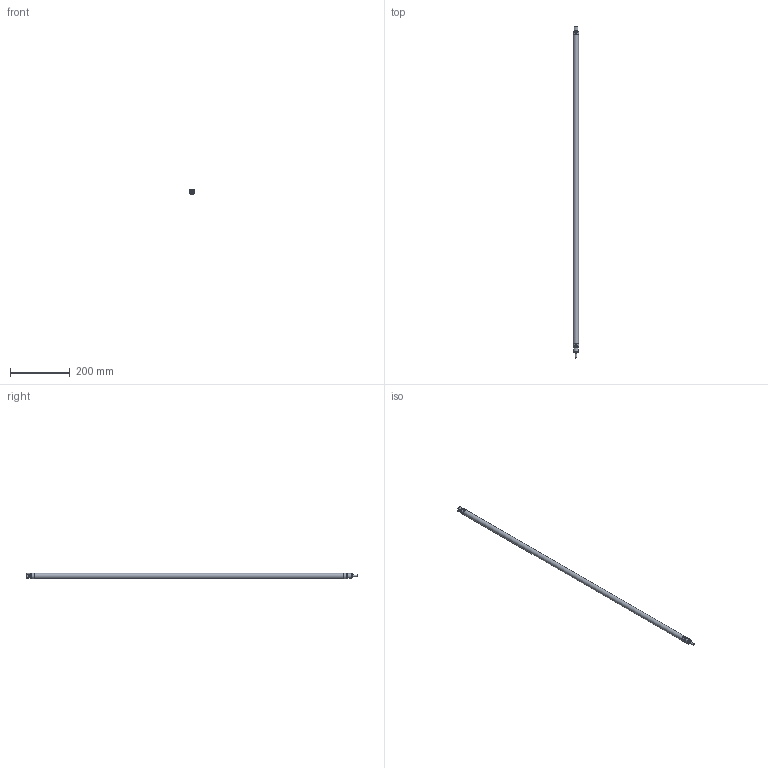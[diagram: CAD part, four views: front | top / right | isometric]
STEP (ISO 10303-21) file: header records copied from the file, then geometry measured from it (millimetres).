
FILE_DESCRIPTION((''),'2;1');
FILE_NAME('T:\Archivio Inventor\- 00 NUOVI STP PER SITO CON STELO CHE SI MUOVE\SERIE O\ODM\ODM016.---.GS.M\ODM016.1000.GS.M.stp','2017-06-12T15:35:23',('carlo.corazza'),(''),'Autodesk Inventor 2013','Autodesk Inventor 2013','');
FILE_SCHEMA(('AUTOMOTIVE_DESIGN { 1 0 10303 214 1 1 1 1 }'));
Length unit declared in the file: millimetre
Products named in the file (5): ODM016..GS.M; CORPO-1000; STELO-1000; TA; TP
Assembly tree (4 placements, depth 2):
  ODM016..GS.M
    CORPO-1000
    STELO-1000
    TA
    TP
Bounding box: 18.95 x 1109 x 18.14 mm (x, y, z)
Volume: 75370.3 mm3; surface area: 133081.7 mm2
Topology: 4 solids, 4 shells, 98 faces, 204 edges, 129 vertices
Faces by surface type: plane 40, cylinder 28, cone 23, torus 7
Full cylindrical faces by diameter (mm): 4 x1, 4.134 x2, 5.9 x1, 6 x2, 6.5 x1, 7.1 x1, 9 x1, 9.1 x1, 11.1 x1, 11.2 x1, 13.7 x1, 16 x3, 17.2 x2, 17.27 x1
Entity records: 2545 total; most frequent: DIRECTION 444, CARTESIAN_POINT 422, ORIENTED_EDGE 296, AXIS2_PLACEMENT_3D 198, EDGE_LOOP 162, EDGE_CURVE 148, VERTEX_POINT 118, FACE_OUTER_BOUND 98
